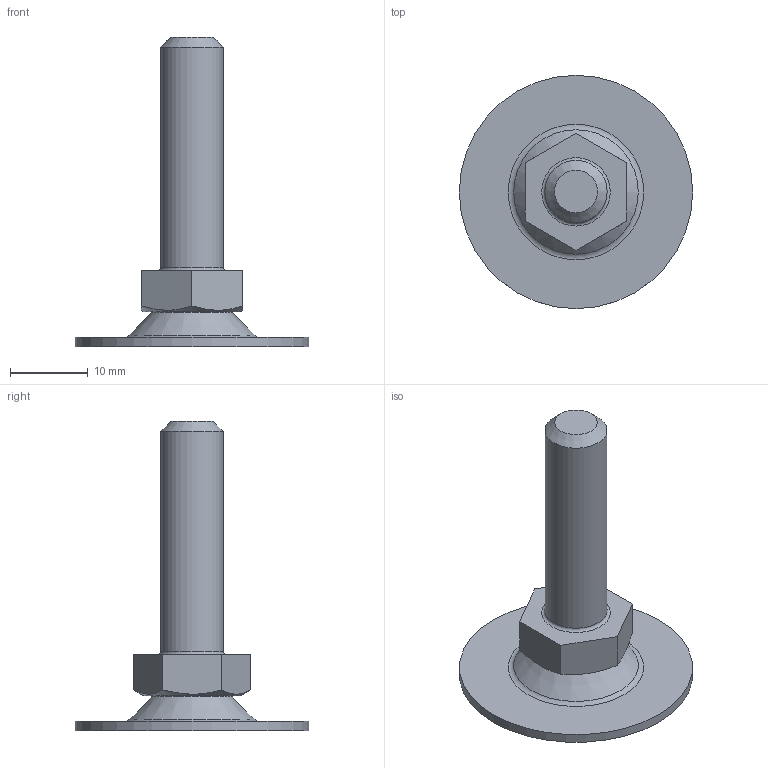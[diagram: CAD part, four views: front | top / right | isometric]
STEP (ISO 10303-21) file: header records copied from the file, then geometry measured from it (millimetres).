
FILE_DESCRIPTION(('STEP AP203'), '1');
FILE_NAME('A00050.1030816', '', ('UNSPECIFIED'), ('UNSPECIFIED'), 'C3D Converter', 'C3D Toolkit', '');
FILE_SCHEMA(('CONFIG_CONTROL_DESIGN'));
Length unit declared in the file: millimetre
Products named in the file (4): A00050.1030830; A00050.1030
Assembly tree (3 placements, depth 2):
  A00050.1030830
    A00050.1030
    (unnamed)
    (unnamed)
Bounding box: 30 x 30 x 39.78 mm (x, y, z)
Volume: 3209.9 mm3; surface area: 3300.2 mm2
Topology: 3 solids, 3 shells, 58 faces, 130 edges, 82 vertices
Faces by surface type: plane 28, torus 8, bspline 8, cone 7, cylinder 6, sphere 1
Full cylindrical faces by diameter (mm): 3.3 x1, 4 x1, 4.5 x1, 8 x2, 30 x1
Entity records: 2171 total; most frequent: CARTESIAN_POINT 784, DIRECTION 242, ORIENTED_EDGE 214, EDGE_CURVE 107, AXIS2_PLACEMENT_3D 95, EDGE_LOOP 86, VERTEX_POINT 81, ADVANCED_FACE 58
